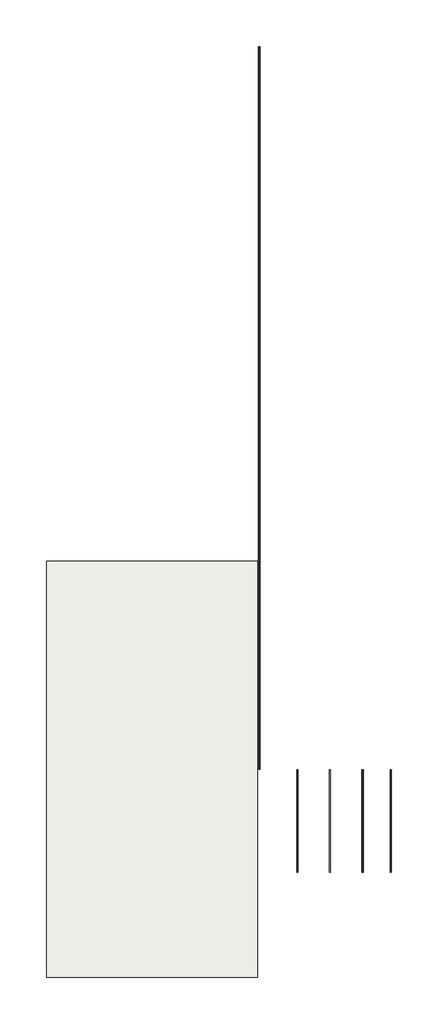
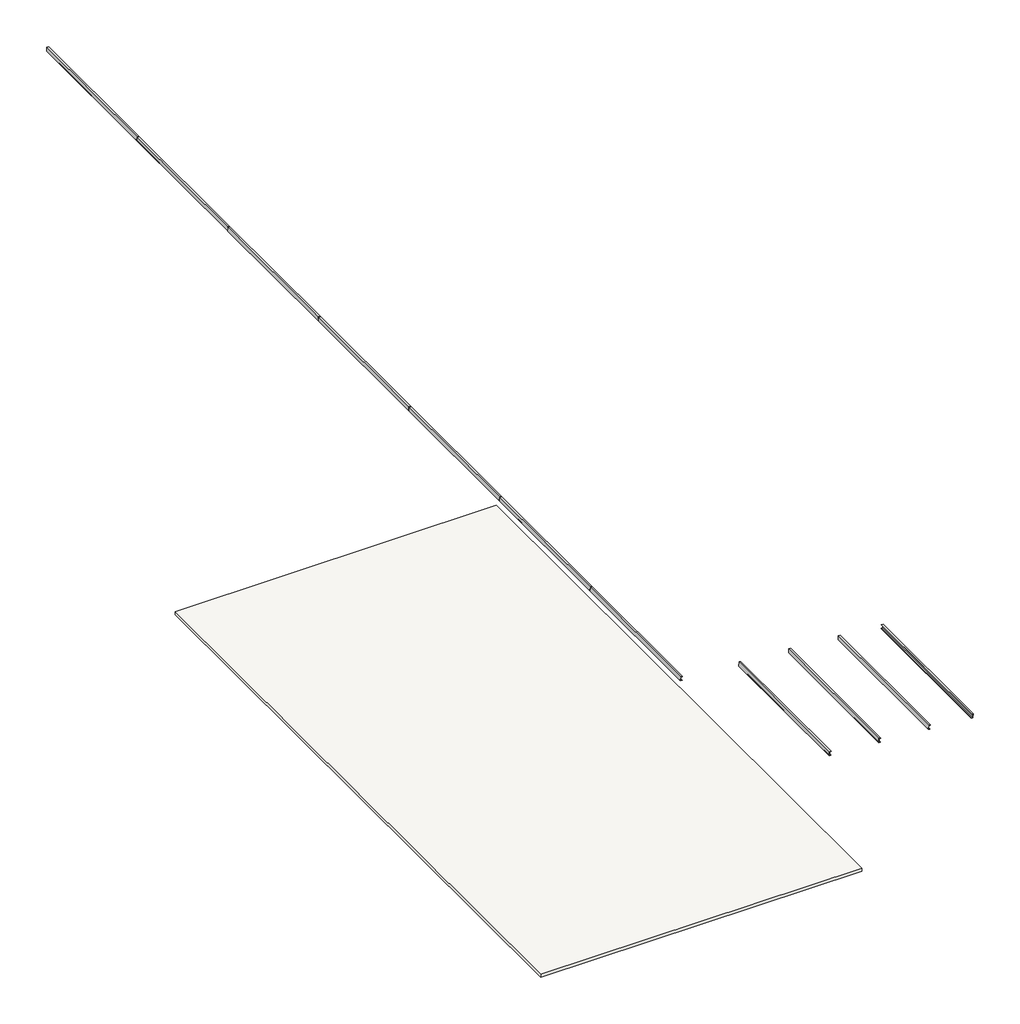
# One storey: 11 beams, 1 slab.
"""IFC4 building model written with IfcOpenShell, lengths in millimetres."""

from ifc_helpers import new_model, si_unit, frame, origin, place, context, project, spatial, polyline, outline, extrude, transform, mapped, element, save
from components import c160_97cef8d6, c160_676f0d43, c160_1365dad8

model = new_model("IFC4")

# Units and contexts
model_context = context("Model", 3, world=origin())
ifc_project = project(units=[si_unit("LENGTHUNIT", "METRE", prefix="MILLI")], contexts=[model_context])

# Site, building, storey
site = spatial("IfcSite", under=ifc_project)
building = spatial("IfcBuilding", under=site)
storey = spatial("IfcBuildingStorey", under=building, Name="+4,02 Poziom stropu", Elevation=4020.0)

# Beams
placement = place(None, origin())
c160_shape = c160_97cef8d6(model_context)
element("IfcBeam", 1, ObjectType="RPLN C - Ceowniki normalne : C160", at=placement, inside=storey, context=model_context, shape_type="MappedRepresentation", body=[
    mapped(c160_shape, transform((6344.3186079, -27912.4816585, 4151.1940138), x_axis=(0.0, 1.0, 0.0), y_axis=(-0.997461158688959, 0.0, 0.07121261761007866), z_axis=(0.07121261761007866, 0.0, 0.997461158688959))),
])
element("IfcBeam", 2, ObjectType="RPLN C - Ceowniki normalne : C160", at=placement, inside=storey, context=model_context, shape_type="MappedRepresentation", body=[
    mapped(c160_shape, transform((8239.4941285, -27912.4816585, 4015.890089), x_axis=(0.0, 1.0, 0.0), y_axis=(-0.997461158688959, 0.0, 0.07121261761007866), z_axis=(0.07121261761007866, 0.0, 0.997461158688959))),
])
element("IfcBeam", 3, ObjectType="RPLN C - Ceowniki normalne : C160", at=placement, inside=storey, context=model_context, shape_type="MappedRepresentation", body=[
    mapped(c160_shape, transform((10134.6671984, -27912.4816585, 3880.5863391), x_axis=(0.0, 1.0, 0.0), y_axis=(-0.997461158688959, 0.0, 0.07121261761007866), z_axis=(0.07121261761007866, 0.0, 0.997461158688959))),
])
c160_2_shape = c160_676f0d43(model_context)
element("IfcBeam", 4, ObjectType="RPLN C - Ceowniki normalne : C160", at=placement, inside=storey, context=model_context, shape_type="MappedRepresentation", body=[
    mapped(c160_2_shape, transform((4123.7030851, 14087.5183415, 4309.7323616), x_axis=(0.0, 1.0, 0.0), y_axis=(-0.997461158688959, 0.0, 0.07121261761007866), z_axis=(0.07121261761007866, 0.0, 0.997461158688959))),
])
element("IfcBeam", 5, ObjectType="RPLN C - Ceowniki normalne : C160", at=placement, inside=storey, context=model_context, shape_type="MappedRepresentation", body=[
    mapped(c160_shape, transform((4123.7030851, -21912.4816585, 4309.7323616), x_axis=(0.0, 1.0, 0.0), y_axis=(-0.997461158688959, 0.0, 0.07121261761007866), z_axis=(0.07121261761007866, 0.0, 0.997461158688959))),
])
element("IfcBeam", 6, ObjectType="RPLN C - Ceowniki normalne : C160", at=placement, inside=storey, context=model_context, shape_type="MappedRepresentation", body=[
    mapped(c160_shape, transform((4123.7030851, -15912.4816585, 4309.7323616), x_axis=(0.0, 1.0, 0.0), y_axis=(-0.997461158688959, 0.0, 0.07121261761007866), z_axis=(0.07121261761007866, 0.0, 0.997461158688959))),
])
element("IfcBeam", 7, ObjectType="RPLN C - Ceowniki normalne : C160", at=placement, inside=storey, context=model_context, shape_type="MappedRepresentation", body=[
    mapped(c160_shape, transform((4123.7030851, -9912.4816585, 4309.7323616), x_axis=(0.0, 1.0, 0.0), y_axis=(-0.997461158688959, 0.0, 0.07121261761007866), z_axis=(0.07121261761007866, 0.0, 0.997461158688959))),
])
element("IfcBeam", 8, ObjectType="RPLN C - Ceowniki normalne : C160", at=placement, inside=storey, context=model_context, shape_type="MappedRepresentation", body=[
    mapped(c160_shape, transform((4123.7030851, -3912.4816585, 4309.7323616), x_axis=(0.0, 1.0, 0.0), y_axis=(-0.997461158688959, 0.0, 0.07121261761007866), z_axis=(0.07121261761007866, 0.0, 0.997461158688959))),
])
element("IfcBeam", 9, ObjectType="RPLN C - Ceowniki normalne : C160", at=placement, inside=storey, context=model_context, shape_type="MappedRepresentation", body=[
    mapped(c160_shape, transform((4123.7030851, 2087.5183415, 4309.7323616), x_axis=(0.0, 1.0, 0.0), y_axis=(-0.997461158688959, 0.0, 0.07121261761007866), z_axis=(0.07121261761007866, 0.0, 0.997461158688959))),
])
element("IfcBeam", 10, ObjectType="RPLN C - Ceowniki normalne : C160", at=placement, inside=storey, context=model_context, shape_type="MappedRepresentation", body=[
    mapped(c160_2_shape, transform((11806.0493936, -27912.4816585, 3761.259887), x_axis=(0.0, -1.0, 0.0), y_axis=(0.997461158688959, 0.0, -0.07121261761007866), z_axis=(0.07121261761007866, 0.0, 0.997461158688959))),
])
c160_3_shape = c160_1365dad8(model_context)
element("IfcBeam", 11, ObjectType="RPLN C - Ceowniki normalne : C160", at=placement, inside=storey, context=model_context, shape_type="MappedRepresentation", body=[
    mapped(c160_3_shape, transform((4123.7030851, 8087.5183415, 4309.7323616), x_axis=(0.0, 1.0, 0.0), y_axis=(-0.997461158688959, 0.0, 0.07121261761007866), z_axis=(0.07121261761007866, 0.0, 0.997461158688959))),
])

# Slab
element("IfcSlab", 12, ObjectType="Strop zespolony 120mm", at=placement, inside=storey, context=model_context, shape_type="SweptSolid", body=[
    extrude(outline(polyline([(-8233.1111104, -12817.4816585), (4039.0888896, -12817.4816585), (4039.0888896, -37007.4816585), (-8233.1111104, -37007.4816585), (-8233.1111104, -12817.4816585)])), frame((0.0, 0.0, 3900.0), z_axis=(0.0, 0.0, 1.0), x_axis=(1.0, 0.0, 0.0)), (0.0, 0.0, 1.0), 120.0),
])

save(model, "model.ifc")
